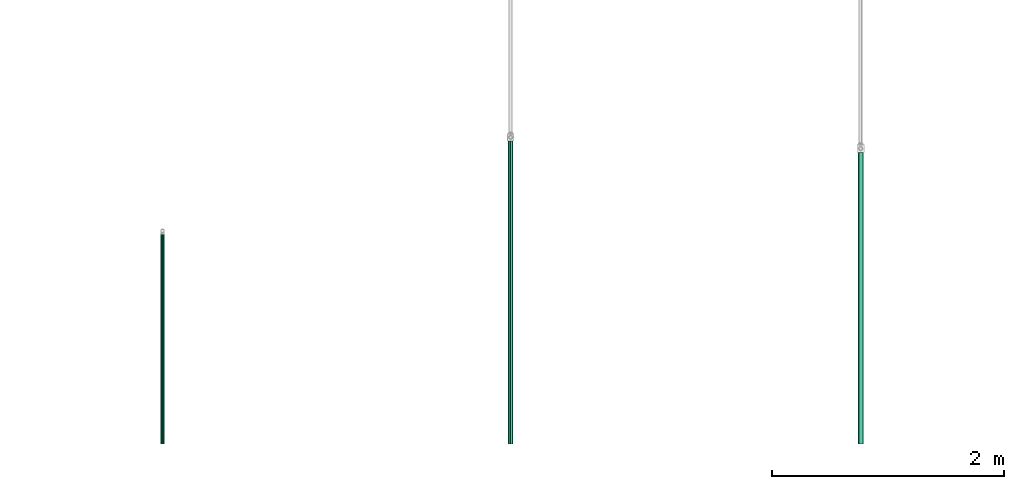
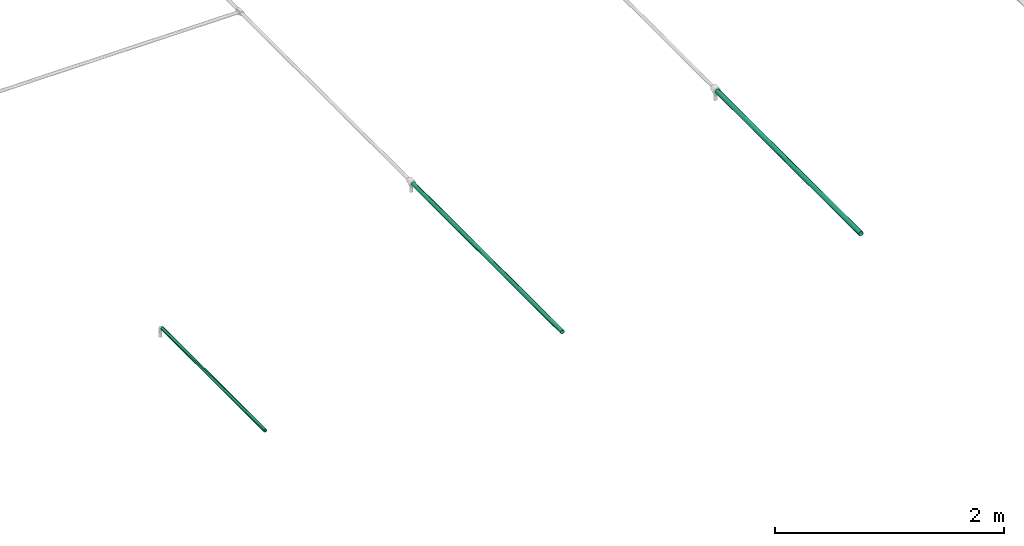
# One storey, part 13 of 17: 3 flow segments.
"""IFC2X3 building model written with IfcOpenShell, lengths in millimetres."""

from ifc_helpers import new_model, entity, si_unit, converted_unit, derived_unit, direction, frame, place, context, subcontext, project, spatial, faceted_brep, type_object, element, save


model = new_model("IFC2X3")

# Units and contexts
model_context = context("Model", 3, precision=0.01, world=frame((0.0, 4.29681676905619e-09, 0.0)), true_north=direction((4.01073788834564e-13, 1.0)))
plan_context = context("Plan", 3, precision=0.01, world=frame((0.0, 4.29681676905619e-09, 0.0)), true_north=direction((4.01073788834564e-13, 1.0)))
body_context = subcontext(model_context, "Body", "Model", "MODEL_VIEW")
ifc_project = project(units=[converted_unit("PLANEANGLEUNIT", "DEGREE", entity("IfcPositiveLengthMeasure", 0.0174532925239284), si_unit("PLANEANGLEUNIT", "RADIAN"), dimensions=[0, 0, 0, 0, 0, 0, 0]), si_unit("AREAUNIT", "SQUARE_METRE"), si_unit("LENGTHUNIT", "METRE", prefix="MILLI"), si_unit("MASSUNIT", "GRAM", prefix="KILO"), si_unit("POWERUNIT", "WATT"), si_unit("PRESSUREUNIT", "PASCAL"), si_unit("FORCEUNIT", "NEWTON", prefix="KILO"), si_unit("ELECTRICVOLTAGEUNIT", "VOLT"), si_unit("ELECTRICCURRENTUNIT", "AMPERE"), si_unit("THERMODYNAMICTEMPERATUREUNIT", "DEGREE_CELSIUS"), si_unit("TIMEUNIT", "SECOND"), si_unit("VOLUMEUNIT", "CUBIC_METRE"), derived_unit("LINEARVELOCITYUNIT", [(si_unit("LENGTHUNIT", "METRE"), 1), (si_unit("TIMEUNIT", "SECOND"), -1)]), derived_unit("VOLUMETRICFLOWRATEUNIT", [(si_unit("VOLUMEUNIT", "CUBIC_METRE"), 1), (si_unit("TIMEUNIT", "SECOND"), -1)]), derived_unit("THERMALTRANSMITTANCEUNIT", [(si_unit("POWERUNIT", "WATT"), 1), (si_unit("THERMODYNAMICTEMPERATUREUNIT", "KELVIN"), -1), (si_unit("AREAUNIT", "SQUARE_METRE"), -1)]), derived_unit("SOUNDPRESSUREUNIT", [(si_unit("PRESSUREUNIT", "PASCAL"), 1)])], contexts=[model_context, plan_context])

# Site, building, storey
site_placement = place(None, frame((0.0, -4.29681676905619e-09, 0.0), z_axis=(0.0, 0.0, 1.0), x_axis=(1.0, 0.0, 0.0)))
site = spatial("IfcSite", under=ifc_project, at=site_placement, Name="ENGM", CompositionType="ELEMENT")
building_placement = place(site_placement, frame((0.0, 4.29681676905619e-09, 0.0), z_axis=(0.0, 0.0, 1.0), x_axis=(1.0, 0.0, 0.0)))
building = spatial("IfcBuilding", under=site, at=building_placement, Name="TH", CompositionType="ELEMENT")
storey_placement = place(building_placement, frame((0.0, 0.0, 205200.0), z_axis=(0.0, 0.0, 1.0), x_axis=(1.0, 0.0, 0.0)))
storey = spatial("IfcBuildingStorey", under=building, at=storey_placement, Name="Nivå D + 1,2 m", CompositionType="ELEMENT", Elevation=205200.0)

# Flow segments
pipe_segment_type = type_object("IfcPipeSegmentType", Name="Stålrør normaltykke", PredefinedType="RIGIDSEGMENT")
flow_segment_1_placement = place(storey_placement, frame((899432.08103, 475098.81064, 4446.54603), z_axis=(0.0, 0.0, 1.0), x_axis=(0.0, 1.0, 0.0)))
element("IfcFlowSegment", 1, at=flow_segment_1_placement, inside=storey, type_object=pipe_segment_type, Name="Stålrør normaltykke", context=body_context, shape_type="Brep", body=[
    faceted_brep([(935.866280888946, 14.6736355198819, -2.58735784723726), (935.866280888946, 14.9, 0.0), (2738.3, 14.9, 0.0), (2738.3, 14.6736355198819, -2.58735784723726), (935.866280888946, 14.00142004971, -5.09610013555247), (2738.3, 14.00142004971, -5.09610013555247), (935.866280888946, 12.9037785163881, -7.45000000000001), (2738.3, 12.9037785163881, -7.45000000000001), (935.866280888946, 11.4140622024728, -9.57753538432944), (2738.3, 11.4140622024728, -9.57753538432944), (935.866280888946, 9.57753538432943, -11.4140622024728), (2738.3, 9.57753538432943, -11.4140622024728), (935.866280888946, 7.45, -12.9037785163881), (2738.3, 7.45, -12.9037785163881), (935.866280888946, 5.09610013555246, -14.00142004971), (2738.3, 5.09610013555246, -14.00142004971), (935.866280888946, 2.58735784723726, -14.6736355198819), (2738.3, 2.58735784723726, -14.6736355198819), (935.866280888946, -2.73708559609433e-15, -14.9), (2738.3, -2.73708559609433e-15, -14.9), (935.866280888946, -2.58735784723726, -14.6736355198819), (2738.3, -2.58735784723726, -14.6736355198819), (935.866280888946, -5.09610013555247, -14.00142004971), (2738.3, -5.09610013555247, -14.00142004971), (935.866280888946, -7.45000000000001, -12.9037785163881), (2738.3, -7.45000000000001, -12.9037785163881), (935.866280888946, -9.57753538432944, -11.4140622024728), (2738.3, -9.57753538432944, -11.4140622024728), (935.866280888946, -11.4140622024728, -9.57753538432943), (2738.3, -11.4140622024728, -9.57753538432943), (935.866280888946, -12.9037785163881, -7.45), (2738.3, -12.9037785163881, -7.44999999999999), (935.866280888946, -14.00142004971, -5.09610013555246), (2738.3, -14.00142004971, -5.09610013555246), (935.866280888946, -14.6736355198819, -2.58735784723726), (2738.3, -14.6736355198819, -2.58735784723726), (935.866280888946, -14.9, 1.82472373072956e-15), (2738.3, -14.9, 1.82472373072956e-15), (935.866280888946, -14.6736355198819, 2.58735784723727), (2738.3, -14.6736355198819, 2.58735784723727), (935.866280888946, -14.00142004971, 5.09610013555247), (2738.3, -14.00142004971, 5.09610013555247), (935.866280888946, -12.9037785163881, 7.45), (2738.3, -12.9037785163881, 7.45), (935.866280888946, -11.4140622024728, 9.57753538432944), (2738.3, -11.4140622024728, 9.57753538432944), (935.866280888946, -9.57753538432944, 11.4140622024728), (2738.3, -9.57753538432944, 11.4140622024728), (935.866280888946, -7.45, 12.9037785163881), (2738.3, -7.45, 12.9037785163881), (935.866280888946, -5.09610013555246, 14.00142004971), (2738.3, -5.09610013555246, 14.00142004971), (935.866280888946, -2.58735784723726, 14.6736355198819), (2738.3, -2.58735784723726, 14.6736355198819), (935.866280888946, 9.12361865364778e-16, 14.9), (2738.3, 9.12361865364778e-16, 14.9), (935.866280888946, 2.58735784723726, 14.6736355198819), (2738.3, 2.58735784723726, 14.6736355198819), (935.866280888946, 5.09610013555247, 14.00142004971), (2738.3, 5.09610013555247, 14.00142004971), (935.866280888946, 7.45, 12.9037785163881), (2738.3, 7.45, 12.9037785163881), (935.866280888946, 9.57753538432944, 11.4140622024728), (2738.3, 9.57753538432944, 11.4140622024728), (935.866280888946, 11.4140622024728, 9.57753538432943), (2738.3, 11.4140622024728, 9.57753538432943), (935.866280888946, 12.9037785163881, 7.45), (2738.3, 12.9037785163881, 7.45), (935.866280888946, 14.00142004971, 5.09610013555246), (2738.3, 14.00142004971, 5.09610013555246), (935.866280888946, 14.6736355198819, 2.58735784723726), (2738.3, 14.6736355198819, 2.58735784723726), (935.866280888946, 16.9, 0.0), (935.866280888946, 16.6432510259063, -2.93465420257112), (2738.3, 16.6432510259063, -2.93465420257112), (2738.3, 16.9, 0.0), (935.866280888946, 16.6432510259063, 2.93465420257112), (2738.3, 16.6432510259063, 2.93465420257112), (935.866280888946, 15.8808052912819, 5.7801404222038), (2738.3, 15.8808052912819, 5.7801404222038), (935.866280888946, 14.635829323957, 8.45), (2738.3, 14.635829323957, 8.45), (935.866280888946, 12.9461510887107, 10.8631106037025), (2738.3, 12.9461510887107, 10.8631106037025), (935.866280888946, 10.8631106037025, 12.9461510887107), (2738.3, 10.8631106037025, 12.9461510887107), (935.866280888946, 8.45, 14.635829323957), (2738.3, 8.45, 14.635829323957), (935.866280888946, 5.7801404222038, 15.8808052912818), (2738.3, 5.7801404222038, 15.8808052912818), (935.866280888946, 2.93465420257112, 16.6432510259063), (2738.3, 2.93465420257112, 16.6432510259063), (935.866280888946, 1.03482654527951e-15, 16.9), (2738.3, 1.03482654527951e-15, 16.9), (935.866280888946, -2.93465420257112, 16.6432510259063), (2738.3, -2.93465420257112, 16.6432510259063), (935.866280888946, -5.7801404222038, 15.8808052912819), (2738.3, -5.7801404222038, 15.8808052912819), (935.866280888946, -8.45, 14.635829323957), (2738.3, -8.45, 14.635829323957), (935.866280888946, -10.8631106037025, 12.9461510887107), (2738.3, -10.8631106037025, 12.9461510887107), (935.866280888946, -12.9461510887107, 10.8631106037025), (2738.3, -12.9461510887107, 10.8631106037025), (935.866280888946, -14.635829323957, 8.45), (2738.3, -14.635829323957, 8.45), (935.866280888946, -15.8808052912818, 5.7801404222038), (2738.3, -15.8808052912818, 5.7801404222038), (935.866280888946, -16.6432510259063, 2.93465420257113), (2738.3, -16.6432510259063, 2.93465420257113), (935.866280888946, -16.9, 2.06965309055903e-15), (2738.3, -16.9, 2.06965309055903e-15), (935.866280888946, -16.6432510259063, -2.93465420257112), (2738.3, -16.6432510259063, -2.93465420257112), (935.866280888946, -15.8808052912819, -5.7801404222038), (2738.3, -15.8808052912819, -5.7801404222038), (935.866280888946, -14.635829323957, -8.44999999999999), (2738.3, -14.635829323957, -8.44999999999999), (935.866280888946, -12.9461510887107, -10.8631106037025), (2738.3, -12.9461510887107, -10.8631106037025), (935.866280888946, -10.8631106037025, -12.9461510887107), (2738.3, -10.8631106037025, -12.9461510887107), (935.866280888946, -8.45000000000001, -14.635829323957), (2738.3, -8.45000000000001, -14.635829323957), (935.866280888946, -5.78014042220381, -15.8808052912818), (2738.3, -5.78014042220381, -15.8808052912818), (935.866280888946, -2.93465420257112, -16.6432510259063), (2738.3, -2.93465420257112, -16.6432510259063), (935.866280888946, -3.10447963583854e-15, -16.9), (2738.3, -3.10447963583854e-15, -16.9), (935.866280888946, 2.93465420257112, -16.6432510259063), (2738.3, 2.93465420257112, -16.6432510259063), (935.866280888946, 5.78014042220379, -15.8808052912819), (2738.3, 5.78014042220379, -15.8808052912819), (935.866280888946, 8.45, -14.635829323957), (2738.3, 8.45, -14.635829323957), (935.866280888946, 10.8631106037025, -12.9461510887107), (2738.3, 10.8631106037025, -12.9461510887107), (935.866280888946, 12.9461510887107, -10.8631106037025), (2738.3, 12.9461510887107, -10.8631106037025), (935.866280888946, 14.635829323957, -8.45000000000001), (2738.3, 14.635829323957, -8.45000000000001), (935.866280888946, 15.8808052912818, -5.78014042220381), (2738.3, 15.8808052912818, -5.78014042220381)], [[[0, 1, 2, 3]], [[4, 0, 3, 5]], [[6, 4, 5, 7]], [[8, 6, 7, 9]], [[10, 8, 9, 11]], [[12, 10, 11, 13]], [[14, 12, 13, 15]], [[16, 14, 15, 17]], [[18, 16, 17, 19]], [[20, 18, 19, 21]], [[22, 20, 21, 23]], [[24, 22, 23, 25]], [[26, 24, 25, 27]], [[28, 26, 27, 29]], [[30, 28, 29, 31]], [[32, 30, 31, 33]], [[34, 32, 33, 35]], [[36, 34, 35, 37]], [[38, 36, 37, 39]], [[40, 38, 39, 41]], [[42, 40, 41, 43]], [[44, 42, 43, 45]], [[46, 44, 45, 47]], [[48, 46, 47, 49]], [[50, 48, 49, 51]], [[52, 50, 51, 53]], [[54, 52, 53, 55]], [[56, 54, 55, 57]], [[58, 56, 57, 59]], [[60, 58, 59, 61]], [[62, 60, 61, 63]], [[64, 62, 63, 65]], [[66, 64, 65, 67]], [[68, 66, 67, 69]], [[70, 68, 69, 71]], [[1, 70, 71, 2]], [[72, 73, 74, 75]], [[76, 72, 75, 77]], [[78, 76, 77, 79]], [[80, 78, 79, 81]], [[82, 80, 81, 83]], [[84, 82, 83, 85]], [[86, 84, 85, 87]], [[88, 86, 87, 89]], [[90, 88, 89, 91]], [[92, 90, 91, 93]], [[94, 92, 93, 95]], [[96, 94, 95, 97]], [[98, 96, 97, 99]], [[100, 98, 99, 101]], [[102, 100, 101, 103]], [[104, 102, 103, 105]], [[106, 104, 105, 107]], [[108, 106, 107, 109]], [[110, 108, 109, 111]], [[112, 110, 111, 113]], [[114, 112, 113, 115]], [[116, 114, 115, 117]], [[118, 116, 117, 119]], [[120, 118, 119, 121]], [[122, 120, 121, 123]], [[124, 122, 123, 125]], [[126, 124, 125, 127]], [[128, 126, 127, 129]], [[130, 128, 129, 131]], [[132, 130, 131, 133]], [[134, 132, 133, 135]], [[136, 134, 135, 137]], [[138, 136, 137, 139]], [[140, 138, 139, 141]], [[142, 140, 141, 143]], [[73, 142, 143, 74]], [[75, 74, 143, 141, 139, 137, 135, 133, 131, 129, 127, 125, 123, 121, 119, 117, 115, 113, 111, 109, 107, 105, 103, 101, 99, 97, 95, 93, 91, 89, 87, 85, 83, 81, 79, 77], [2, 71, 69, 67, 65, 63, 61, 59, 57, 55, 53, 51, 49, 47, 45, 43, 41, 39, 37, 35, 33, 31, 29, 27, 25, 23, 21, 19, 17, 15, 13, 11, 9, 7, 5, 3]], [[76, 78, 80, 82, 84, 86, 88, 90, 92, 94, 96, 98, 100, 102, 104, 106, 108, 110, 112, 114, 116, 118, 120, 122, 124, 126, 128, 130, 132, 134, 136, 138, 140, 142, 73, 72], [4, 6, 8, 10, 12, 14, 16, 18, 20, 22, 24, 26, 28, 30, 32, 34, 36, 38, 40, 42, 44, 46, 48, 50, 52, 54, 56, 58, 60, 62, 64, 66, 68, 70, 1, 0]]], orient=[[False], [False], [False], [False], [False], [False], [False], [False], [False], [False], [False], [False], [False], [False], [False], [False], [False], [False], [False], [False], [False], [False], [False], [False], [False], [False], [False], [False], [False], [False], [False], [False], [False], [False], [False], [False], [False], [False], [False], [False], [False], [False], [False], [False], [False], [False], [False], [False], [False], [False], [False], [False], [False], [False], [False], [False], [False], [False], [False], [False], [False], [False], [False], [False], [False], [False], [False], [False], [False], [False], [False], [False], [False, False], [False, False]]),
])
flow_segment_2_placement = place(storey_placement, frame((902429.75707, 475111.29744, 4450.0), z_axis=(0.0, 0.0, 1.0), x_axis=(0.0, 1.0, 0.0)))
element("IfcFlowSegment", 2, at=flow_segment_2_placement, inside=storey, type_object=pipe_segment_type, Name="Stålrør normaltykke", context=body_context, shape_type="Brep", body=[
    faceted_brep([(923.379480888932, 18.9083088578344, -3.33404501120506), (923.379480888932, 19.2, 0.0), (3531.3, 19.2, 0.0), (3531.3, 18.9083088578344, -3.33404501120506), (923.379480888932, 18.0420983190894, -6.56678675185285), (3531.3, 18.0420983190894, -6.56678675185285), (923.379480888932, 16.6276877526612, -9.60000000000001), (3531.3, 16.6276877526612, -9.60000000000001), (923.379480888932, 14.7080533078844, -12.3415221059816), (3531.3, 14.7080533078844, -12.3415221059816), (923.379480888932, 12.3415221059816, -14.7080533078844), (3531.3, 12.3415221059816, -14.7080533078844), (923.379480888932, 9.6, -16.6276877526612), (3531.3, 9.6, -16.6276877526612), (923.379480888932, 6.56678675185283, -18.0420983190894), (3531.3, 6.56678675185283, -18.0420983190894), (923.379480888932, 3.33404501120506, -18.9083088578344), (3531.3, 3.33404501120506, -18.9083088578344), (923.379480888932, -3.52698278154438e-15, -19.2), (3531.3, -3.52698278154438e-15, -19.2), (923.379480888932, -3.33404501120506, -18.9083088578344), (3531.3, -3.33404501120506, -18.9083088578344), (923.379480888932, -6.56678675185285, -18.0420983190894), (3531.3, -6.56678675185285, -18.0420983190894), (923.379480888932, -9.60000000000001, -16.6276877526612), (3531.3, -9.60000000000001, -16.6276877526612), (923.379480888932, -12.3415221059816, -14.7080533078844), (3531.3, -12.3415221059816, -14.7080533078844), (923.379480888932, -14.7080533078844, -12.3415221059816), (3531.3, -14.7080533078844, -12.3415221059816), (923.379480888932, -16.6276877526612, -9.59999999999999), (3531.3, -16.6276877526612, -9.59999999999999), (923.379480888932, -18.0420983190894, -6.56678675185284), (3531.3, -18.0420983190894, -6.56678675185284), (923.379480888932, -18.9083088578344, -3.33404501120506), (3531.3, -18.9083088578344, -3.33404501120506), (923.379480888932, -19.2, 2.35132185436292e-15), (3531.3, -19.2, 2.35132185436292e-15), (923.379480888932, -18.9083088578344, 3.33404501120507), (3531.3, -18.9083088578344, 3.33404501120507), (923.379480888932, -18.0420983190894, 6.56678675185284), (3531.3, -18.0420983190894, 6.56678675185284), (923.379480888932, -16.6276877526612, 9.6), (3531.3, -16.6276877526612, 9.6), (923.379480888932, -14.7080533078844, 12.3415221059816), (3531.3, -14.7080533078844, 12.3415221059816), (923.379480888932, -12.3415221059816, 14.7080533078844), (3531.3, -12.3415221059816, 14.7080533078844), (923.379480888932, -9.6, 16.6276877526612), (3531.3, -9.6, 16.6276877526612), (923.379480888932, -6.56678675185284, 18.0420983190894), (3531.3, -6.56678675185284, 18.0420983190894), (923.379480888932, -3.33404501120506, 18.9083088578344), (3531.3, -3.33404501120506, 18.9083088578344), (923.379480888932, 1.17566092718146e-15, 19.2), (3531.3, 1.17566092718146e-15, 19.2), (923.379480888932, 3.33404501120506, 18.9083088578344), (3531.3, 3.33404501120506, 18.9083088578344), (923.379480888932, 6.56678675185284, 18.0420983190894), (3531.3, 6.56678675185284, 18.0420983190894), (923.379480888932, 9.6, 16.6276877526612), (3531.3, 9.6, 16.6276877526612), (923.379480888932, 12.3415221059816, 14.7080533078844), (3531.3, 12.3415221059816, 14.7080533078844), (923.379480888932, 14.7080533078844, 12.3415221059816), (3531.3, 14.7080533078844, 12.3415221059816), (923.379480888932, 16.6276877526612, 9.6), (3531.3, 16.6276877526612, 9.6), (923.379480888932, 18.0420983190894, 6.56678675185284), (3531.3, 18.0420983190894, 6.56678675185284), (923.379480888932, 18.9083088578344, 3.33404501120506), (3531.3, 18.9083088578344, 3.33404501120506), (923.379480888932, 21.2, 0.0), (923.379480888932, 20.8779243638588, -3.68134136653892), (3531.3, 20.8779243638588, -3.68134136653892), (3531.3, 21.2, 0.0), (923.379480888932, 20.8779243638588, 3.68134136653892), (3531.3, 20.8779243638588, 3.68134136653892), (923.379480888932, 19.9214835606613, 7.25082703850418), (3531.3, 19.9214835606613, 7.25082703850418), (923.379480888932, 18.3597385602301, 10.6), (3531.3, 18.3597385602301, 10.6), (923.379480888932, 16.2401421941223, 13.6270973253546), (3531.3, 16.2401421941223, 13.6270973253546), (923.379480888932, 13.6270973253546, 16.2401421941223), (3531.3, 13.6270973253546, 16.2401421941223), (923.379480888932, 10.6, 18.3597385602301), (3531.3, 10.6, 18.3597385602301), (923.379480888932, 7.25082703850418, 19.9214835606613), (3531.3, 7.25082703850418, 19.9214835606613), (923.379480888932, 3.68134136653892, 20.8779243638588), (3531.3, 3.68134136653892, 20.8779243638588), (923.379480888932, 1.29812560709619e-15, 21.2), (3531.3, 1.29812560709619e-15, 21.2), (923.379480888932, -3.68134136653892, 20.8779243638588), (3531.3, -3.68134136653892, 20.8779243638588), (923.379480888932, -7.25082703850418, 19.9214835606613), (3531.3, -7.25082703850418, 19.9214835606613), (923.379480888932, -10.6, 18.3597385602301), (3531.3, -10.6, 18.3597385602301), (923.379480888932, -13.6270973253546, 16.2401421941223), (3531.3, -13.6270973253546, 16.2401421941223), (923.379480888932, -16.2401421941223, 13.6270973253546), (3531.3, -16.2401421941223, 13.6270973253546), (923.379480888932, -18.3597385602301, 10.6), (3531.3, -18.3597385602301, 10.6), (923.379480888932, -19.9214835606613, 7.25082703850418), (3531.3, -19.9214835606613, 7.25082703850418), (923.379480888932, -20.8779243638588, 3.68134136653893), (3531.3, -20.8779243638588, 3.68134136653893), (923.379480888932, -21.2, 2.59625121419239e-15), (3531.3, -21.2, 2.59625121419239e-15), (923.379480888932, -20.8779243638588, -3.68134136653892), (3531.3, -20.8779243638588, -3.68134136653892), (923.379480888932, -19.9214835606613, -7.25082703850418), (3531.3, -19.9214835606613, -7.25082703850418), (923.379480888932, -18.3597385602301, -10.6), (3531.3, -18.3597385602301, -10.6), (923.379480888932, -16.2401421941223, -13.6270973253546), (3531.3, -16.2401421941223, -13.6270973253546), (923.379480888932, -13.6270973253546, -16.2401421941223), (3531.3, -13.6270973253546, -16.2401421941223), (923.379480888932, -10.6, -18.3597385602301), (3531.3, -10.6, -18.3597385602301), (923.379480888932, -7.25082703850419, -19.9214835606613), (3531.3, -7.25082703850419, -19.9214835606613), (923.379480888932, -3.68134136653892, -20.8779243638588), (3531.3, -3.68134136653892, -20.8779243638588), (923.379480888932, -3.89437682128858e-15, -21.2), (3531.3, -3.89437682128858e-15, -21.2), (923.379480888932, 3.68134136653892, -20.8779243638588), (3531.3, 3.68134136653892, -20.8779243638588), (923.379480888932, 7.25082703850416, -19.9214835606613), (3531.3, 7.25082703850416, -19.9214835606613), (923.379480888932, 10.6, -18.3597385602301), (3531.3, 10.6, -18.3597385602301), (923.379480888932, 13.6270973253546, -16.2401421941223), (3531.3, 13.6270973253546, -16.2401421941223), (923.379480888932, 16.2401421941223, -13.6270973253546), (3531.3, 16.2401421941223, -13.6270973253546), (923.379480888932, 18.3597385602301, -10.6), (3531.3, 18.3597385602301, -10.6), (923.379480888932, 19.9214835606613, -7.25082703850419), (3531.3, 19.9214835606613, -7.25082703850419)], [[[0, 1, 2, 3]], [[4, 0, 3, 5]], [[6, 4, 5, 7]], [[8, 6, 7, 9]], [[10, 8, 9, 11]], [[12, 10, 11, 13]], [[14, 12, 13, 15]], [[16, 14, 15, 17]], [[18, 16, 17, 19]], [[20, 18, 19, 21]], [[22, 20, 21, 23]], [[24, 22, 23, 25]], [[26, 24, 25, 27]], [[28, 26, 27, 29]], [[30, 28, 29, 31]], [[32, 30, 31, 33]], [[34, 32, 33, 35]], [[36, 34, 35, 37]], [[38, 36, 37, 39]], [[40, 38, 39, 41]], [[42, 40, 41, 43]], [[44, 42, 43, 45]], [[46, 44, 45, 47]], [[48, 46, 47, 49]], [[50, 48, 49, 51]], [[52, 50, 51, 53]], [[54, 52, 53, 55]], [[56, 54, 55, 57]], [[58, 56, 57, 59]], [[60, 58, 59, 61]], [[62, 60, 61, 63]], [[64, 62, 63, 65]], [[66, 64, 65, 67]], [[68, 66, 67, 69]], [[70, 68, 69, 71]], [[1, 70, 71, 2]], [[72, 73, 74, 75]], [[76, 72, 75, 77]], [[78, 76, 77, 79]], [[80, 78, 79, 81]], [[82, 80, 81, 83]], [[84, 82, 83, 85]], [[86, 84, 85, 87]], [[88, 86, 87, 89]], [[90, 88, 89, 91]], [[92, 90, 91, 93]], [[94, 92, 93, 95]], [[96, 94, 95, 97]], [[98, 96, 97, 99]], [[100, 98, 99, 101]], [[102, 100, 101, 103]], [[104, 102, 103, 105]], [[106, 104, 105, 107]], [[108, 106, 107, 109]], [[110, 108, 109, 111]], [[112, 110, 111, 113]], [[114, 112, 113, 115]], [[116, 114, 115, 117]], [[118, 116, 117, 119]], [[120, 118, 119, 121]], [[122, 120, 121, 123]], [[124, 122, 123, 125]], [[126, 124, 125, 127]], [[128, 126, 127, 129]], [[130, 128, 129, 131]], [[132, 130, 131, 133]], [[134, 132, 133, 135]], [[136, 134, 135, 137]], [[138, 136, 137, 139]], [[140, 138, 139, 141]], [[142, 140, 141, 143]], [[73, 142, 143, 74]], [[75, 74, 143, 141, 139, 137, 135, 133, 131, 129, 127, 125, 123, 121, 119, 117, 115, 113, 111, 109, 107, 105, 103, 101, 99, 97, 95, 93, 91, 89, 87, 85, 83, 81, 79, 77], [2, 71, 69, 67, 65, 63, 61, 59, 57, 55, 53, 51, 49, 47, 45, 43, 41, 39, 37, 35, 33, 31, 29, 27, 25, 23, 21, 19, 17, 15, 13, 11, 9, 7, 5, 3]], [[76, 78, 80, 82, 84, 86, 88, 90, 92, 94, 96, 98, 100, 102, 104, 106, 108, 110, 112, 114, 116, 118, 120, 122, 124, 126, 128, 130, 132, 134, 136, 138, 140, 142, 73, 72], [4, 6, 8, 10, 12, 14, 16, 18, 20, 22, 24, 26, 28, 30, 32, 34, 36, 38, 40, 42, 44, 46, 48, 50, 52, 54, 56, 58, 60, 62, 64, 66, 68, 70, 1, 0]]], orient=[[False], [False], [False], [False], [False], [False], [False], [False], [False], [False], [False], [False], [False], [False], [False], [False], [False], [False], [False], [False], [False], [False], [False], [False], [False], [False], [False], [False], [False], [False], [False], [False], [False], [False], [False], [False], [False], [False], [False], [False], [False], [False], [False], [False], [False], [False], [False], [False], [False], [False], [False], [False], [False], [False], [False], [False], [False], [False], [False], [False], [False], [False], [False], [False], [False], [False], [False], [False], [False], [False], [False], [False], [False, False], [False, False]]),
])
flow_segment_3_placement = place(storey_placement, frame((905442.5, 475100.08492, 4442.5), z_axis=(0.0, 0.0, 1.0), x_axis=(0.0, 1.0, 0.0)))
element("IfcFlowSegment", 3, at=flow_segment_3_placement, inside=storey, type_object=pipe_segment_type, Name="Stålrør normaltykke", context=body_context, shape_type="Brep", body=[
    faceted_brep([(934.592000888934, 21.7642513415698, -3.83762472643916), (934.592000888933, 22.1, 0.0), (3445.0, 22.1, 0.0), (3445.0, 21.7642513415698, -3.83762472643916), (934.592000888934, 20.7672069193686, -7.5586451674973), (3445.0, 20.7672069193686, -7.5586451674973), (934.592000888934, 19.1391614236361, -11.05), (3445.0, 19.1391614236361, -11.05), (934.592000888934, 16.9295821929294, -14.2056061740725), (3445.0, 16.9295821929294, -14.2056061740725), (934.592000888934, 14.2056061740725, -16.9295821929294), (3445.0, 14.2056061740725, -16.9295821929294), (934.592000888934, 11.05, -19.1391614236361), (3445.0, 11.05, -19.1391614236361), (934.592000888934, 7.55864516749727, -20.7672069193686), (3445.0, 7.55864516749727, -20.7672069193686), (934.592000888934, 3.83762472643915, -21.7642513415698), (3445.0, 3.83762472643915, -21.7642513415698), (934.592000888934, -4.05970413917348e-15, -22.1), (3445.0, -4.05970413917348e-15, -22.1), (934.592000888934, -3.83762472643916, -21.7642513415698), (3445.0, -3.83762472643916, -21.7642513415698), (934.592000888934, -7.55864516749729, -20.7672069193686), (3445.0, -7.55864516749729, -20.7672069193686), (934.592000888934, -11.05, -19.1391614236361), (3445.0, -11.05, -19.1391614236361), (934.592000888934, -14.2056061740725, -16.9295821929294), (3445.0, -14.2056061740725, -16.9295821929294), (934.592000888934, -16.9295821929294, -14.2056061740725), (3445.0, -16.9295821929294, -14.2056061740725), (934.592000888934, -19.1391614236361, -11.05), (3445.0, -19.1391614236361, -11.05), (934.592000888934, -20.7672069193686, -7.55864516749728), (3445.0, -20.7672069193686, -7.55864516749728), (934.592000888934, -21.7642513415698, -3.83762472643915), (3445.0, -21.7642513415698, -3.83762472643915), (934.592000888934, -22.1, 2.70646942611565e-15), (3445.0, -22.1, 2.70646942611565e-15), (934.592000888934, -21.7642513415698, 3.83762472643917), (3445.0, -21.7642513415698, 3.83762472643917), (934.592000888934, -20.7672069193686, 7.55864516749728), (3445.0, -20.7672069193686, 7.55864516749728), (934.592000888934, -19.1391614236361, 11.05), (3445.0, -19.1391614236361, 11.05), (934.592000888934, -16.9295821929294, 14.2056061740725), (3445.0, -16.9295821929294, 14.2056061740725), (934.592000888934, -14.2056061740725, 16.9295821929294), (3445.0, -14.2056061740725, 16.9295821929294), (934.592000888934, -11.05, 19.1391614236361), (3445.0, -11.05, 19.1391614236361), (934.592000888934, -7.55864516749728, 20.7672069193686), (3445.0, -7.55864516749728, 20.7672069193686), (934.592000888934, -3.83762472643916, 21.7642513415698), (3445.0, -3.83762472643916, 21.7642513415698), (934.592000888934, 1.35323471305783e-15, 22.1), (3445.0, 1.35323471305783e-15, 22.1), (934.592000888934, 3.83762472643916, 21.7642513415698), (3445.0, 3.83762472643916, 21.7642513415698), (934.592000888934, 7.55864516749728, 20.7672069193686), (3445.0, 7.55864516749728, 20.7672069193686), (934.592000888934, 11.05, 19.1391614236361), (3445.0, 11.05, 19.1391614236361), (934.592000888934, 14.2056061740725, 16.9295821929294), (3445.0, 14.2056061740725, 16.9295821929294), (934.592000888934, 16.9295821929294, 14.2056061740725), (3445.0, 16.9295821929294, 14.2056061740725), (934.592000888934, 19.1391614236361, 11.05), (3445.0, 19.1391614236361, 11.05), (934.592000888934, 20.7672069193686, 7.55864516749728), (3445.0, 20.7672069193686, 7.55864516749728), (934.592000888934, 21.7642513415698, 3.83762472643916), (3445.0, 21.7642513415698, 3.83762472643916), (934.592000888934, 24.1, 0.0), (934.592000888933, 23.7338668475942, -4.18492108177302), (3445.0, 23.7338668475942, -4.18492108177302), (3445.0, 24.1, 0.0), (934.592000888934, 23.7338668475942, 4.18492108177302), (3445.0, 23.7338668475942, 4.18492108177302), (934.592000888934, 22.6465921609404, 8.24268545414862), (3445.0, 22.6465921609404, 8.24268545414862), (934.592000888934, 20.871212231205, 12.05), (3445.0, 20.871212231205, 12.05), (934.592000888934, 18.4616710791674, 15.4911813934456), (3445.0, 18.4616710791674, 15.4911813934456), (934.592000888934, 15.4911813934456, 18.4616710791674), (3445.0, 15.4911813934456, 18.4616710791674), (934.592000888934, 12.05, 20.871212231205), (3445.0, 12.05, 20.871212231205), (934.592000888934, 8.24268545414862, 22.6465921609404), (3445.0, 8.24268545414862, 22.6465921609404), (934.592000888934, 4.18492108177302, 23.7338668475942), (3445.0, 4.18492108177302, 23.7338668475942), (934.592000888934, 1.47569939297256e-15, 24.1), (3445.0, 1.47569939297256e-15, 24.1), (934.592000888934, -4.18492108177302, 23.7338668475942), (3445.0, -4.18492108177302, 23.7338668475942), (934.592000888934, -8.24268545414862, 22.6465921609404), (3445.0, -8.24268545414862, 22.6465921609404), (934.592000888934, -12.05, 20.871212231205), (3445.0, -12.05, 20.871212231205), (934.592000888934, -15.4911813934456, 18.4616710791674), (3445.0, -15.4911813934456, 18.4616710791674), (934.592000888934, -18.4616710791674, 15.4911813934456), (3445.0, -18.4616710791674, 15.4911813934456), (934.592000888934, -20.871212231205, 12.05), (3445.0, -20.871212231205, 12.05), (934.592000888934, -22.6465921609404, 8.24268545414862), (3445.0, -22.6465921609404, 8.24268545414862), (934.592000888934, -23.7338668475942, 4.18492108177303), (3445.0, -23.7338668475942, 4.18492108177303), (934.592000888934, -24.1, 2.95139878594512e-15), (3445.0, -24.1, 2.95139878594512e-15), (934.592000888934, -23.7338668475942, -4.18492108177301), (3445.0, -23.7338668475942, -4.18492108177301), (934.592000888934, -22.6465921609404, -8.24268545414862), (3445.0, -22.6465921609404, -8.24268545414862), (934.592000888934, -20.871212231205, -12.05), (3445.0, -20.871212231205, -12.05), (934.592000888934, -18.4616710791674, -15.4911813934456), (3445.0, -18.4616710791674, -15.4911813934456), (934.592000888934, -15.4911813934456, -18.4616710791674), (3445.0, -15.4911813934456, -18.4616710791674), (934.592000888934, -12.05, -20.871212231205), (3445.0, -12.05, -20.871212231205), (934.592000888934, -8.24268545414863, -22.6465921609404), (3445.0, -8.24268545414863, -22.6465921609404), (934.592000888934, -4.18492108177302, -23.7338668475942), (3445.0, -4.18492108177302, -23.7338668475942), (934.592000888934, -4.42709817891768e-15, -24.1), (3445.0, -4.42709817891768e-15, -24.1), (934.592000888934, 4.18492108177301, -23.7338668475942), (3445.0, 4.18492108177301, -23.7338668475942), (934.592000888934, 8.2426854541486, -22.6465921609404), (3445.0, 8.2426854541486, -22.6465921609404), (934.592000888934, 12.05, -20.871212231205), (3445.0, 12.05, -20.871212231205), (934.592000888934, 15.4911813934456, -18.4616710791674), (3445.0, 15.4911813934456, -18.4616710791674), (934.592000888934, 18.4616710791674, -15.4911813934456), (3445.0, 18.4616710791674, -15.4911813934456), (934.592000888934, 20.871212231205, -12.05), (3445.0, 20.871212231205, -12.05), (934.592000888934, 22.6465921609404, -8.24268545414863), (3445.0, 22.6465921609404, -8.24268545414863)], [[[0, 1, 2, 3]], [[4, 0, 3, 5]], [[6, 4, 5, 7]], [[8, 6, 7, 9]], [[10, 8, 9, 11]], [[12, 10, 11, 13]], [[14, 12, 13, 15]], [[16, 14, 15, 17]], [[18, 16, 17, 19]], [[20, 18, 19, 21]], [[22, 20, 21, 23]], [[24, 22, 23, 25]], [[26, 24, 25, 27]], [[28, 26, 27, 29]], [[30, 28, 29, 31]], [[32, 30, 31, 33]], [[34, 32, 33, 35]], [[36, 34, 35, 37]], [[38, 36, 37, 39]], [[40, 38, 39, 41]], [[42, 40, 41, 43]], [[44, 42, 43, 45]], [[46, 44, 45, 47]], [[48, 46, 47, 49]], [[50, 48, 49, 51]], [[52, 50, 51, 53]], [[54, 52, 53, 55]], [[56, 54, 55, 57]], [[58, 56, 57, 59]], [[60, 58, 59, 61]], [[62, 60, 61, 63]], [[64, 62, 63, 65]], [[66, 64, 65, 67]], [[68, 66, 67, 69]], [[70, 68, 69, 71]], [[1, 70, 71, 2]], [[72, 73, 74, 75]], [[76, 72, 75, 77]], [[78, 76, 77, 79]], [[80, 78, 79, 81]], [[82, 80, 81, 83]], [[84, 82, 83, 85]], [[86, 84, 85, 87]], [[88, 86, 87, 89]], [[90, 88, 89, 91]], [[92, 90, 91, 93]], [[94, 92, 93, 95]], [[96, 94, 95, 97]], [[98, 96, 97, 99]], [[100, 98, 99, 101]], [[102, 100, 101, 103]], [[104, 102, 103, 105]], [[106, 104, 105, 107]], [[108, 106, 107, 109]], [[110, 108, 109, 111]], [[112, 110, 111, 113]], [[114, 112, 113, 115]], [[116, 114, 115, 117]], [[118, 116, 117, 119]], [[120, 118, 119, 121]], [[122, 120, 121, 123]], [[124, 122, 123, 125]], [[126, 124, 125, 127]], [[128, 126, 127, 129]], [[130, 128, 129, 131]], [[132, 130, 131, 133]], [[134, 132, 133, 135]], [[136, 134, 135, 137]], [[138, 136, 137, 139]], [[140, 138, 139, 141]], [[142, 140, 141, 143]], [[73, 142, 143, 74]], [[75, 74, 143, 141, 139, 137, 135, 133, 131, 129, 127, 125, 123, 121, 119, 117, 115, 113, 111, 109, 107, 105, 103, 101, 99, 97, 95, 93, 91, 89, 87, 85, 83, 81, 79, 77], [2, 71, 69, 67, 65, 63, 61, 59, 57, 55, 53, 51, 49, 47, 45, 43, 41, 39, 37, 35, 33, 31, 29, 27, 25, 23, 21, 19, 17, 15, 13, 11, 9, 7, 5, 3]], [[76, 78, 80, 82, 84, 86, 88, 90, 92, 94, 96, 98, 100, 102, 104, 106, 108, 110, 112, 114, 116, 118, 120, 122, 124, 126, 128, 130, 132, 134, 136, 138, 140, 142, 73, 72], [4, 6, 8, 10, 12, 14, 16, 18, 20, 22, 24, 26, 28, 30, 32, 34, 36, 38, 40, 42, 44, 46, 48, 50, 52, 54, 56, 58, 60, 62, 64, 66, 68, 70, 1, 0]]], orient=[[False], [False], [False], [False], [False], [False], [False], [False], [False], [False], [False], [False], [False], [False], [False], [False], [False], [False], [False], [False], [False], [False], [False], [False], [False], [False], [False], [False], [False], [False], [False], [False], [False], [False], [False], [False], [False], [False], [False], [False], [False], [False], [False], [False], [False], [False], [False], [False], [False], [False], [False], [False], [False], [False], [False], [False], [False], [False], [False], [False], [False], [False], [False], [False], [False], [False], [False], [False], [False], [False], [False], [False], [False, False], [False, False]]),
])

save(model, "model.ifc")
